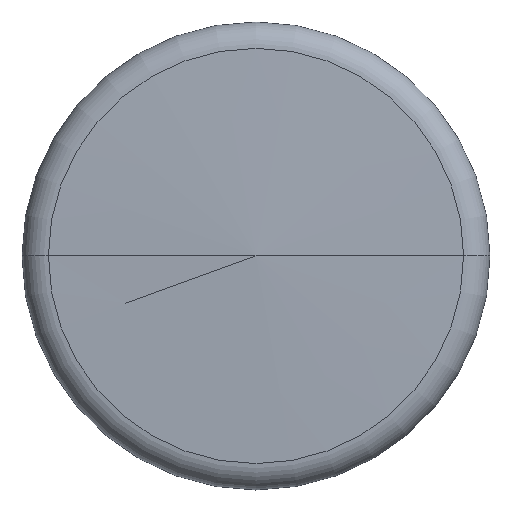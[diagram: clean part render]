
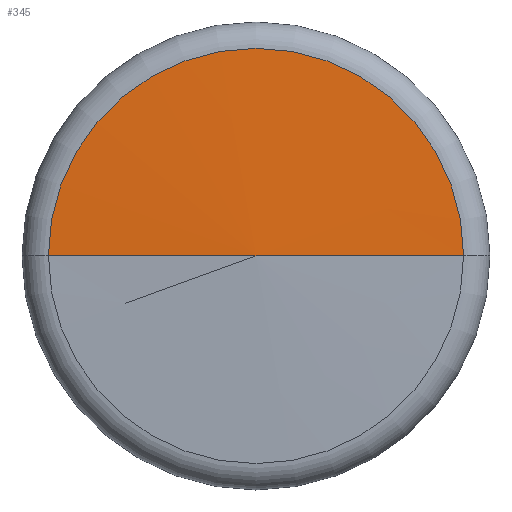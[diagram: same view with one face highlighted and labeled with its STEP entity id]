
A CAD part, top view. The second image highlights one B-rep face of the part: STEP entity #345.
In plain terms, the highlighted conical face has half-angle 88.091 degrees and reference radius 30 mm.
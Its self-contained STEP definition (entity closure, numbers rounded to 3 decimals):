
#38 = CARTESIAN_POINT ( 'NONE',  ( 0., 0., 29.113 ) ) ;
#111 = ORIENTED_EDGE ( 'NONE', *, *, #450, .T. ) ;
#172 = CARTESIAN_POINT ( 'NONE',  ( 0., 0., 30. ) ) ;
#254 = EDGE_LOOP ( 'NONE', ( #329, #725, #111 ) ) ;
#301 = DIRECTION ( 'NONE',  ( 1., 0., 0. ) ) ;
#329 = ORIENTED_EDGE ( 'NONE', *, *, #1571, .F. ) ;
#345 = ADVANCED_FACE ( 'NONE', ( #3147 ), #2141, .T. ) ;
#450 = EDGE_CURVE ( 'NONE', #2771, #1548, #3072, .T. ) ;
#485 = DIRECTION ( 'NONE',  ( 0., 0., -1. ) ) ;
#603 = VECTOR ( 'NONE', #1208, 1000. ) ;
#710 = DIRECTION ( 'NONE',  ( -0.999, 0., -0.033 ) ) ;
#725 = ORIENTED_EDGE ( 'NONE', *, *, #3342, .T. ) ;
#944 = CARTESIAN_POINT ( 'NONE',  ( 30., 0., 29. ) ) ;
#1208 = DIRECTION ( 'NONE',  ( 0.999, 0., -0.033 ) ) ;
#1295 = LINE ( 'NONE', #944, #603 ) ;
#1515 = DIRECTION ( 'NONE',  ( -1., 0., 0. ) ) ;
#1548 = VERTEX_POINT ( 'NONE', #3297 ) ;
#1571 = EDGE_CURVE ( 'NONE', #3083, #1548, #3213, .T. ) ;
#1714 = AXIS2_PLACEMENT_3D ( 'NONE', #2293, #485, #1515 ) ;
#1847 = DIRECTION ( 'NONE',  ( 0., 0., 1. ) ) ;
#2002 = VECTOR ( 'NONE', #710, 1000. ) ;
#2141 = CONICAL_SURFACE ( 'NONE', #1714, 30., 1.537 ) ;
#2293 = CARTESIAN_POINT ( 'NONE',  ( 0., 0., 29. ) ) ;
#2539 = CARTESIAN_POINT ( 'NONE',  ( -30., 0., 29. ) ) ;
#2635 = CARTESIAN_POINT ( 'NONE',  ( 26.617, 0., 29.113 ) ) ;
#2707 = AXIS2_PLACEMENT_3D ( 'NONE', #38, #1847, #301 ) ;
#2771 = VERTEX_POINT ( 'NONE', #2635 ) ;
#3072 = CIRCLE ( 'NONE', #2707, 26.617 ) ;
#3083 = VERTEX_POINT ( 'NONE', #172 ) ;
#3147 = FACE_OUTER_BOUND ( 'NONE', #254, .T. ) ;
#3213 = LINE ( 'NONE', #2539, #2002 ) ;
#3297 = CARTESIAN_POINT ( 'NONE',  ( -26.617, 0., 29.113 ) ) ;
#3342 = EDGE_CURVE ( 'NONE', #3083, #2771, #1295, .T. ) ;
